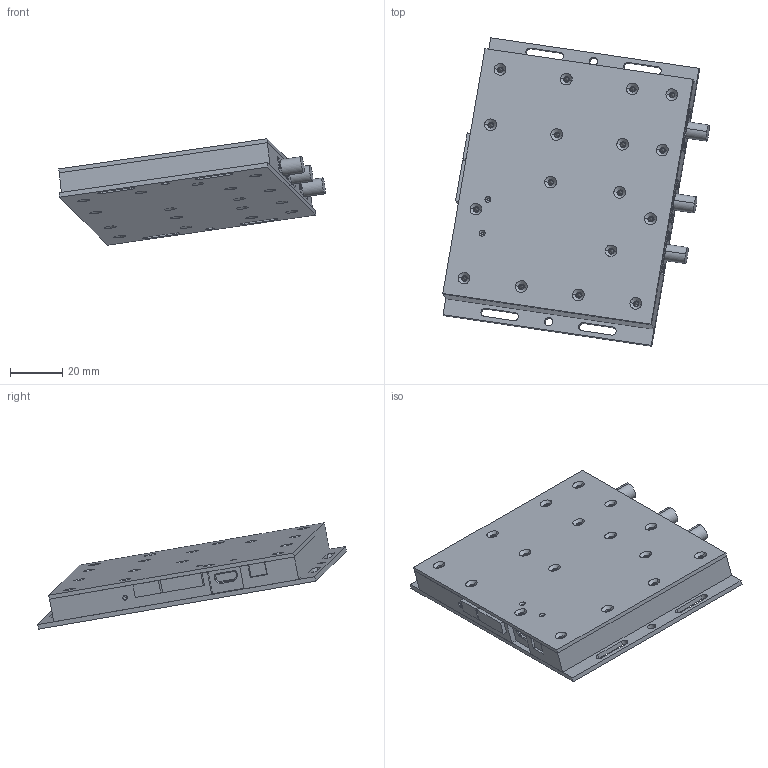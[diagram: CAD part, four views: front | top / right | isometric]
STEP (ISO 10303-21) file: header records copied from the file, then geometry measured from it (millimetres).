
FILE_DESCRIPTION (( 'STEP AP203' ), '1' );
FILE_NAME ('5015 ASSEM - Complete.STEP', '2019-09-11T00:05:23', ( 'Adaptru' ), ( 'Microsoft' ), 'SwSTEP 2.0', 'SolidWorks 2012', '' );
FILE_SCHEMA (( 'CONFIG_CONTROL_DESIGN' ));
Length unit declared in the file: inch
Products named in the file (12): 5015 ASSEM - Complete; 5015 TOP-COVER; 5015 BOTTOM-COVER; CINCH-SMA; BOARD ASSM; A1; J2; J3; J5; J7; BOARD; 5015-HOUSING
Assembly tree (14 placements, depth 3):
  5015 ASSEM - Complete
    5015-HOUSING
    BOARD ASSM
      BOARD
      J7
      J5
      J3
      J2
      A1  x2
    CINCH-SMA  x3
    5015 BOTTOM-COVER
    5015 TOP-COVER
Bounding box: 102.06 x 118.19 x 40.73 mm (x, y, z)
Volume: 61262.1 mm3; surface area: 68533.8 mm2
Topology: 13 solids, 13 shells, 708 faces, 1908 edges, 1238 vertices
Faces by surface type: plane 318, cylinder 312, cone 78
Entity records: 22606 total; most frequent: DIRECTION 3817, CARTESIAN_POINT 3658, ORIENTED_EDGE 3568, EDGE_CURVE 1784, AXIS2_PLACEMENT_3D 1369, VERTEX_POINT 1158, LINE 1079, VECTOR 1079
